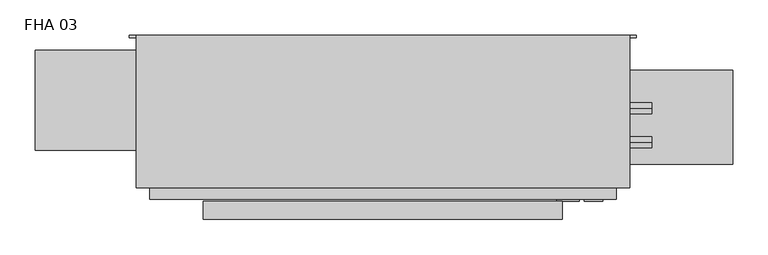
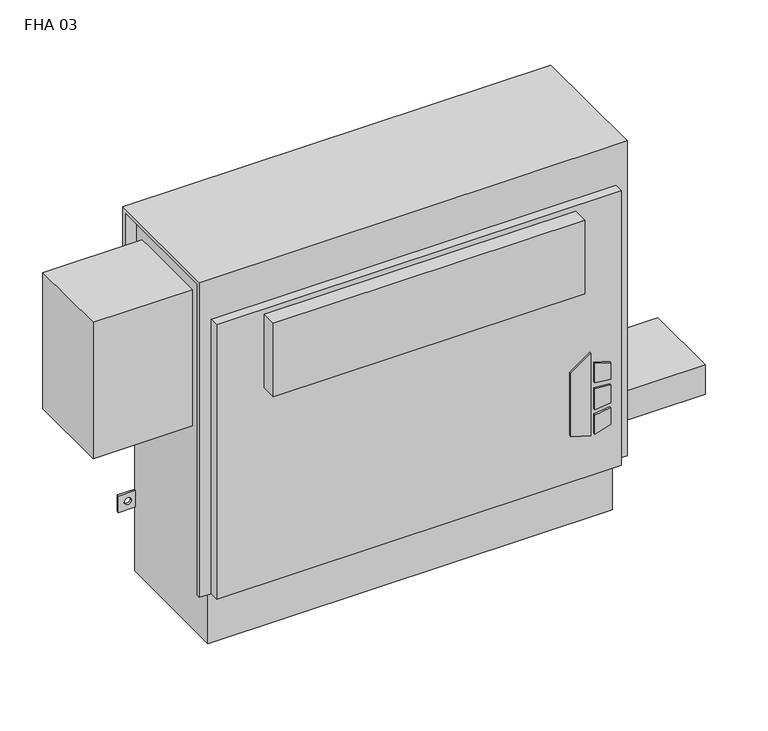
"""IFC4 building model written with IfcOpenShell, lengths in millimetres: proxy geometry, Vertical_Fan_Coil_Unit_-_FHA_-_IEC_-_2-Pipe_FS-FR_RH_2022 : FHA 03."""

from ifc_helpers import new_model, si_unit, point, frame, frame_2d, origin, place, context, project, spatial, polyline, circle_curve, trimmed, segment, composite_curve, outline, extrude, source, transform, mapped, element, save
from ifc_brep_helpers import plane_surface, revolved_surface, advanced_brep


def fha_03_7d003db8(model_context):
    return source(origin(), model_context, "Body", "SolidModel", [
        extrude(outline(polyline([(172.5771459, 398.5368862), (162.6290756, 430.7102728), (304.8, 430.7102728), (281.7779939, 398.5368862), (172.5771459, 398.5368862)])), frame((0.0, 9.525, 0.0), z_axis=(0.0, 1.0, 0.0), x_axis=(0.0, 0.0, 1.0)), (0.0, 0.0, 1.0), 3.175),
        extrude(outline(polyline([(251.5764313, 437.4686058), (248.3740387, 463.55), (277.6028798, 463.55), (285.6672948, 437.4686058), (251.5764313, 437.4686058)])), frame((0.0, 9.525, 0.0), z_axis=(0.0, 1.0, 0.0), x_axis=(0.0, 0.0, 1.0)), (0.0, 0.0, 1.0), 3.175),
        extrude(outline(polyline([(199.7129044, 463.55), (196.0474034, 437.4686058), (162.6290756, 437.4686058), (171.2633128, 463.55), (199.7129044, 463.55)])), frame((0.0, 9.525, 0.0), z_axis=(0.0, 1.0, 0.0), x_axis=(0.0, 0.0, 1.0)), (0.0, 0.0, 1.0), 3.175),
        extrude(outline(polyline([(239.0280658, 463.55), (241.3098921, 437.4686058), (205.3723436, 437.4686058), (208.1136086, 463.55), (239.0280658, 463.55)])), frame((0.0, 9.525, 0.0), z_axis=(0.0, 1.0, 0.0), x_axis=(0.0, 0.0, 1.0)), (0.0, 0.0, 1.0), 3.175),
        extrude(outline(composite_curve([segment(trimmed(circle_curve(frame_2d((546.1, 128.5875)), 9.525), [point((536.575, 128.5875))], [point((555.625, 128.5875))], False, "CARTESIAN"), True, "CONTINUOUS"), segment(trimmed(circle_curve(frame_2d((546.1, 128.5875)), 9.525), [point((555.625, 128.5875))], [point((536.575, 128.5875))], False, "CARTESIAN"), True, "CONTINUOUS")], self_intersect=False)), frame((0.0, 0.0, 101.6), z_axis=(0.0, 0.0, 1.0), x_axis=(1.0, 0.0, 0.0)), (0.0, 0.0, 1.0), 25.4),
        extrude(outline(polyline([(647.7, 195.2625), (647.7, 61.9125), (482.6, 61.9125), (482.6, 195.2625), (647.7, 195.2625)])), frame((0.0, 0.0, 127.0), z_axis=(0.0, 0.0, 1.0), x_axis=(1.0, 0.0, 0.0)), (0.0, 0.0, 1.0), 50.8),
        extrude(outline(polyline([(406.4, -15.875), (-101.6, -15.875), (-101.6, 9.525), (406.4, 9.525), (406.4, -15.875)])), frame((0.0, 0.0, 431.8), z_axis=(0.0, 0.0, 1.0), x_axis=(1.0, 0.0, 0.0)), (0.0, 0.0, 1.0), 127.0),
        extrude(outline(composite_curve([segment(trimmed(circle_curve(frame_2d((93.1926, 488.0102)), 7.9375), [point((93.1926, 480.0727))], [point((93.1926, 495.9477))], False, "CARTESIAN"), True, "CONTINUOUS"), segment(trimmed(circle_curve(frame_2d((93.1926, 488.0102)), 7.9375), [point((93.1926, 495.9477))], [point((93.1926, 480.0727))], False, "CARTESIAN"), True, "CONTINUOUS")], self_intersect=False)), frame((482.6, 0.0, 0.0), z_axis=(1.0, 0.0, 0.0), x_axis=(0.0, 1.0, 0.0)), (0.0, 0.0, 1.0), 50.8),
        extrude(outline(composite_curve([segment(trimmed(circle_curve(frame_2d((141.3002, 461.3402)), 7.9375), [point((141.3002, 453.4027))], [point((141.3002, 469.2777))], False, "CARTESIAN"), True, "CONTINUOUS"), segment(trimmed(circle_curve(frame_2d((141.3002, 461.3402)), 7.9375), [point((141.3002, 469.2777))], [point((141.3002, 453.4027))], False, "CARTESIAN"), True, "CONTINUOUS")], self_intersect=False)), frame((482.6, 0.0, 0.0), z_axis=(1.0, 0.0, 0.0), x_axis=(0.0, 1.0, 0.0)), (0.0, 0.0, 1.0), 50.8),
        extrude(outline(polyline([(-177.8, 223.266), (-177.8, 81.534), (-339.725, 81.534), (-339.725, 223.266), (-177.8, 223.266)])), frame((0.0, 0.0, 349.25), z_axis=(0.0, 0.0, 1.0), x_axis=(1.0, 0.0, 0.0)), (0.0, 0.0, 1.0), 234.95),
        advanced_brep(
        [(501.65, 244.475, 635.0), (-196.85, 244.475, 635.0), (-196.85, 28.575, 635.0), (501.65, 28.575, 635.0), (-177.8, 244.475, 0.0), (482.6, 244.475, 0.0), (482.6, 38.1, 0.0), (-177.8, 38.1, 0.0), (501.65, 244.475, 558.8), (482.6, 244.475, 558.8), (482.6, 244.475, 414.3375), (511.175, 244.475, 414.3375), (511.175, 244.475, 385.7625), (482.6, 244.475, 385.7625), (482.6, 244.475, 287.3375), (511.175, 244.475, 287.3375), (511.175, 244.475, 258.7625), (482.6, 244.475, 258.7625), (482.6, 244.475, 141.2875), (511.175, 244.475, 141.2875), (511.175, 244.475, 112.7125), (482.6, 244.475, 112.7125), (-177.8, 244.475, 112.7125), (-206.375, 244.475, 112.7125), (-206.375, 244.475, 141.2875), (-177.8, 244.475, 141.2875), (-177.8, 244.475, 258.7625), (-206.375, 244.475, 258.7625), (-206.375, 244.475, 287.3375), (-177.8, 244.475, 287.3375), (-177.8, 244.475, 385.7625), (-206.375, 244.475, 385.7625), (-206.375, 244.475, 414.3375), (-177.8, 244.475, 414.3375), (-177.8, 244.475, 558.8), (-196.85, 244.475, 558.8), (500.8626, 244.475, 127.0), (489.7374, 244.475, 127.0), (-184.9374, 244.475, 127.0), (-196.0626, 244.475, 127.0), (500.8626, 244.475, 273.05), (489.7374, 244.475, 273.05), (-184.9374, 244.475, 273.05), (-196.0626, 244.475, 273.05), (500.8626, 244.475, 400.05), (489.7374, 244.475, 400.05), (-184.9374, 244.475, 400.05), (-196.0626, 244.475, 400.05), (-196.85, 238.125, 558.8), (-196.85, 238.125, 628.65), (-196.85, 34.925, 628.65), (-196.85, 34.925, 92.075), (-196.85, 28.575, 92.075), (482.6, 12.7, 565.15), (-177.8, 12.7, 565.15), (-177.8, 12.7, 92.075), (482.6, 12.7, 92.075), (501.65, 28.575, 92.075), (501.65, 34.925, 92.075), (501.65, 34.925, 628.65), (501.65, 238.125, 628.65), (501.65, 238.125, 558.8), (-177.8, 28.575, 92.075), (-177.8, 28.575, 565.15), (482.6, 28.575, 565.15), (482.6, 28.575, 92.075), (-177.8, 34.925, 92.075), (-177.8, 38.1, 92.075), (482.6, 38.1, 92.075), (482.6, 34.925, 92.075), (482.6, 241.3, 112.7125), (482.6, 241.3, 141.2875), (482.6, 241.3, 258.7625), (482.6, 241.3, 287.3375), (482.6, 241.3, 385.7625), (482.6, 241.3, 414.3375), (482.6, 238.125, 558.8), (482.6, 238.125, 628.65), (482.6, 34.925, 628.65), (-177.8, 34.925, 628.65), (-177.8, 238.125, 628.65), (-177.8, 238.125, 558.8), (-177.8, 241.3, 414.3375), (-177.8, 241.3, 385.7625), (-177.8, 241.3, 287.3375), (-177.8, 241.3, 258.7625), (-177.8, 241.3, 141.2875), (-177.8, 241.3, 112.7125), (511.175, 241.3, 112.7125), (511.175, 241.3, 141.2875), (489.7374, 241.3, 127.0), (500.8626, 241.3, 127.0), (511.175, 241.3, 258.7625), (511.175, 241.3, 287.3375), (489.7374, 241.3, 273.05), (500.8626, 241.3, 273.05), (511.175, 241.3, 385.7625), (511.175, 241.3, 414.3375), (489.7374, 241.3, 400.05), (500.8626, 241.3, 400.05), (-206.375, 241.3, 141.2875), (-206.375, 241.3, 112.7125), (-196.0626, 241.3, 127.0), (-184.9374, 241.3, 127.0), (-206.375, 241.3, 287.3375), (-206.375, 241.3, 258.7625), (-196.0626, 241.3, 273.05), (-184.9374, 241.3, 273.05), (-206.375, 241.3, 414.3375), (-206.375, 241.3, 385.7625), (-196.0626, 241.3, 400.05), (-184.9374, 241.3, 400.05)],
        [
            (0, 1),
            (1, 2),
            (2, 3),
            (3, 0),
            (4, 5),
            (5, 6),
            (6, 7),
            (7, 4),
            (0, 8),
            (8, 9),
            (9, 10),
            (10, 11),
            (11, 12),
            (12, 13),
            (13, 14),
            (14, 15),
            (15, 16),
            (16, 17),
            (17, 18),
            (18, 19),
            (19, 20),
            (20, 21),
            (21, 5),
            (4, 22),
            (22, 23),
            (23, 24),
            (24, 25),
            (25, 26),
            (26, 27),
            (27, 28),
            (28, 29),
            (29, 30),
            (30, 31),
            (31, 32),
            (32, 33),
            (33, 34),
            (34, 35),
            (35, 1),
            (36, 37, circle_curve(frame((495.3, 244.475, 127.0), z_axis=(0.0, -1.0, 0.0), x_axis=(-1.0, 0.0, 0.0)), 5.5626)),
            (37, 36, circle_curve(frame((495.3, 244.475, 127.0), z_axis=(0.0, -1.0, 0.0), x_axis=(-1.0, 0.0, 0.0)), 5.5626)),
            (38, 39, circle_curve(frame((-190.5, 244.475, 127.0), z_axis=(0.0, -1.0, 0.0), x_axis=(-1.0, 0.0, 0.0)), 5.5626)),
            (39, 38, circle_curve(frame((-190.5, 244.475, 127.0), z_axis=(0.0, -1.0, 0.0), x_axis=(-1.0, 0.0, 0.0)), 5.5626)),
            (40, 41, circle_curve(frame((495.3, 244.475, 273.05), z_axis=(0.0, -1.0, 0.0), x_axis=(-1.0, 0.0, 0.0)), 5.5626)),
            (41, 40, circle_curve(frame((495.3, 244.475, 273.05), z_axis=(0.0, -1.0, 0.0), x_axis=(-1.0, 0.0, 0.0)), 5.5626)),
            (42, 43, circle_curve(frame((-190.5, 244.475, 273.05), z_axis=(0.0, -1.0, 0.0), x_axis=(-1.0, 0.0, 0.0)), 5.5626)),
            (43, 42, circle_curve(frame((-190.5, 244.475, 273.05), z_axis=(0.0, -1.0, 0.0), x_axis=(-1.0, 0.0, 0.0)), 5.5626)),
            (44, 45, circle_curve(frame((495.3, 244.475, 400.05), z_axis=(0.0, -1.0, 0.0), x_axis=(-1.0, 0.0, 0.0)), 5.5626)),
            (45, 44, circle_curve(frame((495.3, 244.475, 400.05), z_axis=(0.0, -1.0, 0.0), x_axis=(-1.0, 0.0, 0.0)), 5.5626)),
            (46, 47, circle_curve(frame((-190.5, 244.475, 400.05), z_axis=(0.0, -1.0, 0.0), x_axis=(-1.0, 0.0, 0.0)), 5.5626)),
            (47, 46, circle_curve(frame((-190.5, 244.475, 400.05), z_axis=(0.0, -1.0, 0.0), x_axis=(-1.0, 0.0, 0.0)), 5.5626)),
            (35, 48),
            (48, 49),
            (49, 50),
            (50, 51),
            (51, 52),
            (52, 2),
            (53, 54),
            (54, 55),
            (55, 56),
            (56, 53),
            (3, 57),
            (57, 58),
            (58, 59),
            (59, 60),
            (60, 61),
            (61, 8),
            (52, 62),
            (62, 63),
            (63, 64),
            (64, 65),
            (65, 57),
            (53, 64),
            (63, 54),
            (55, 62),
            (51, 66),
            (66, 67),
            (67, 68),
            (68, 69),
            (69, 58),
            (65, 56),
            (6, 68),
            (67, 7),
            (21, 70),
            (70, 71),
            (71, 18),
            (17, 72),
            (72, 73),
            (73, 14),
            (13, 74),
            (74, 75),
            (75, 10),
            (9, 76),
            (76, 77),
            (77, 78),
            (78, 69),
            (66, 79),
            (79, 80),
            (80, 81),
            (81, 34),
            (33, 82),
            (82, 83),
            (83, 30),
            (29, 84),
            (84, 85),
            (85, 26),
            (25, 86),
            (86, 87),
            (87, 22),
            (76, 61),
            (60, 77),
            (78, 59),
            (50, 79),
            (81, 48),
            (80, 49),
            (70, 88),
            (88, 89),
            (89, 71),
            (90, 91, circle_curve(frame((495.3, 241.3, 127.0), z_axis=(0.0, 1.0, 0.0), x_axis=(-1.0, 0.0, 0.0)), 5.5626)),
            (91, 90, circle_curve(frame((495.3, 241.3, 127.0), z_axis=(0.0, 1.0, 0.0), x_axis=(-1.0, 0.0, 0.0)), 5.5626)),
            (92, 93),
            (93, 73),
            (72, 92),
            (94, 95, circle_curve(frame((495.3, 241.3, 273.05), z_axis=(0.0, 1.0, 0.0), x_axis=(-1.0, 0.0, 0.0)), 5.5626)),
            (95, 94, circle_curve(frame((495.3, 241.3, 273.05), z_axis=(0.0, 1.0, 0.0), x_axis=(-1.0, 0.0, 0.0)), 5.5626)),
            (96, 97),
            (97, 75),
            (74, 96),
            (98, 99, circle_curve(frame((495.3, 241.3, 400.05), z_axis=(0.0, 1.0, 0.0), x_axis=(-1.0, 0.0, 0.0)), 5.5626)),
            (99, 98, circle_curve(frame((495.3, 241.3, 400.05), z_axis=(0.0, 1.0, 0.0), x_axis=(-1.0, 0.0, 0.0)), 5.5626)),
            (100, 101),
            (101, 87),
            (86, 100),
            (102, 103, circle_curve(frame((-190.5, 241.3, 127.0), z_axis=(0.0, 1.0, 0.0), x_axis=(-1.0, 0.0, 0.0)), 5.5626)),
            (103, 102, circle_curve(frame((-190.5, 241.3, 127.0), z_axis=(0.0, 1.0, 0.0), x_axis=(-1.0, 0.0, 0.0)), 5.5626)),
            (84, 104),
            (104, 105),
            (105, 85),
            (106, 107, circle_curve(frame((-190.5, 241.3, 273.05), z_axis=(0.0, 1.0, 0.0), x_axis=(-1.0, 0.0, 0.0)), 5.5626)),
            (107, 106, circle_curve(frame((-190.5, 241.3, 273.05), z_axis=(0.0, 1.0, 0.0), x_axis=(-1.0, 0.0, 0.0)), 5.5626)),
            (108, 109),
            (109, 83),
            (82, 108),
            (110, 111, circle_curve(frame((-190.5, 241.3, 400.05), z_axis=(0.0, 1.0, 0.0), x_axis=(-1.0, 0.0, 0.0)), 5.5626)),
            (111, 110, circle_curve(frame((-190.5, 241.3, 400.05), z_axis=(0.0, 1.0, 0.0), x_axis=(-1.0, 0.0, 0.0)), 5.5626)),
            (89, 19),
            (88, 20),
            (16, 92),
            (93, 15),
            (12, 96),
            (97, 11),
            (24, 100),
            (101, 23),
            (105, 27),
            (104, 28),
            (32, 108),
            (109, 31),
            (90, 37),
            (36, 91),
            (102, 39),
            (38, 103),
            (94, 41),
            (40, 95),
            (106, 43),
            (42, 107),
            (98, 45),
            (44, 99),
            (110, 47),
            (46, 111),
        ],
        [
            plane_surface(frame((-196.85, 244.475, 635.0), z_axis=(0.0, 0.0, 1.0), x_axis=(-1.0, 0.0, 0.0))),
            plane_surface(frame((-196.85, 244.475, 0.0), z_axis=(0.0, 0.0, -1.0), x_axis=(1.0, 0.0, 0.0))),
            plane_surface(frame((501.65, 244.475, 635.0), z_axis=(0.0, 1.0, 0.0), x_axis=(0.0, 0.0, -1.0))),
            plane_surface(frame((-196.85, 244.475, 635.0), z_axis=(-1.0, 0.0, 0.0), x_axis=(0.0, 0.0, -1.0))),
            plane_surface(frame((-196.85, 12.7, 635.0), z_axis=(0.0, -1.0, 0.0), x_axis=(0.0, 0.0, -1.0))),
            plane_surface(frame((501.65, 12.7, 635.0), z_axis=(1.0, 0.0, 0.0), x_axis=(0.0, 0.0, -1.0))),
            plane_surface(frame((-247.65, 28.575, 635.0), z_axis=(0.0, -1.0, 0.0), x_axis=(1.0, 0.0, 0.0))),
            plane_surface(frame((-247.65, 28.575, 565.15), z_axis=(0.0, 0.0, 1.0), x_axis=(1.0, 0.0, 0.0))),
            plane_surface(frame((-196.85, 12.7, 92.075), z_axis=(0.0, 0.0, -1.0), x_axis=(1.0, 0.0, 0.0))),
            plane_surface(frame((-196.85, 38.1, 92.075), z_axis=(0.0, -1.0, 0.0), x_axis=(1.0, 0.0, 0.0))),
            plane_surface(frame((482.6, 28.575, 92.075), z_axis=(1.0, 0.0, 0.0), x_axis=(0.0, -1.0, 0.0))),
            plane_surface(frame((-177.8, 28.575, 565.15), z_axis=(-1.0, 0.0, 0.0), x_axis=(0.0, -1.0, 0.0))),
            plane_surface(frame((482.6, 244.475, 0.0), z_axis=(1.0, 0.0, 0.0), x_axis=(0.0, -1.0, 0.0))),
            plane_surface(frame((-177.8, 244.475, 92.075), z_axis=(-1.0, 0.0, 0.0), x_axis=(0.0, -1.0, 0.0))),
            plane_surface(frame((482.6, 238.125, 628.65), z_axis=(0.0, -1.0, 0.0), x_axis=(1.0, 0.0, 0.0))),
            plane_surface(frame((482.6, 238.125, 558.8), z_axis=(0.0, 0.0, -1.0), x_axis=(1.0, 0.0, 0.0))),
            plane_surface(frame((482.6, 34.925, 92.075), z_axis=(0.0, 1.0, 0.0), x_axis=(1.0, 0.0, 0.0))),
            plane_surface(frame((482.6, 34.925, 628.65), z_axis=(0.0, 0.0, -1.0), x_axis=(1.0, 0.0, 0.0))),
            plane_surface(frame((-177.8, 34.925, 628.65), z_axis=(0.0, 1.0, 0.0), x_axis=(-1.0, 0.0, 0.0))),
            plane_surface(frame((-177.8, 244.475, 558.8), z_axis=(0.0, 0.0, -1.0), x_axis=(-1.0, 0.0, 0.0))),
            plane_surface(frame((-177.8, 238.125, 558.8), z_axis=(0.0, -1.0, 0.0), x_axis=(-1.0, 0.0, 0.0))),
            plane_surface(frame((-177.8, 238.125, 628.65), z_axis=(0.0, 0.0, -1.0), x_axis=(-1.0, 0.0, 0.0))),
            plane_surface(frame((511.175, 241.3, 141.2875), z_axis=(0.0, -1.0, 0.0), x_axis=(-1.0, 0.0, 0.0))),
            plane_surface(frame((482.6, 244.475, 141.2875), z_axis=(0.0, 0.0, 1.0), x_axis=(0.0, -1.0, 0.0))),
            plane_surface(frame((511.175, 244.475, 141.2875), z_axis=(1.0, 0.0, 0.0), x_axis=(0.0, -1.0, 0.0))),
            plane_surface(frame((511.175, 244.475, 112.7125), z_axis=(0.0, 0.0, -1.0), x_axis=(0.0, -1.0, 0.0))),
            plane_surface(frame((511.175, 244.475, 258.7625), z_axis=(0.0, 0.0, -1.0), x_axis=(0.0, -1.0, 0.0))),
            plane_surface(frame((482.6, 244.475, 287.3375), z_axis=(0.0, 0.0, 1.0), x_axis=(0.0, -1.0, 0.0))),
            plane_surface(frame((511.175, 244.475, 287.3375), z_axis=(1.0, 0.0, 0.0), x_axis=(0.0, -1.0, 0.0))),
            plane_surface(frame((511.175, 244.475, 385.7625), z_axis=(0.0, 0.0, -1.0), x_axis=(0.0, -1.0, 0.0))),
            plane_surface(frame((482.6, 244.475, 414.3375), z_axis=(0.0, 0.0, 1.0), x_axis=(0.0, -1.0, 0.0))),
            plane_surface(frame((511.175, 244.475, 414.3375), z_axis=(1.0, 0.0, 0.0), x_axis=(0.0, -1.0, 0.0))),
            plane_surface(frame((-206.375, 244.475, 141.2875), z_axis=(0.0, 0.0, 1.0), x_axis=(0.0, -1.0, 0.0))),
            plane_surface(frame((-177.8, 244.475, 112.7125), z_axis=(0.0, 0.0, -1.0), x_axis=(0.0, -1.0, 0.0))),
            plane_surface(frame((-206.375, 244.475, 112.7125), z_axis=(-1.0, 0.0, 0.0), x_axis=(0.0, -1.0, 0.0))),
            plane_surface(frame((-177.8, 244.475, 258.7625), z_axis=(0.0, 0.0, -1.0), x_axis=(0.0, -1.0, 0.0))),
            plane_surface(frame((-206.375, 244.475, 258.7625), z_axis=(-1.0, 0.0, 0.0), x_axis=(0.0, -1.0, 0.0))),
            plane_surface(frame((-206.375, 244.475, 287.3375), z_axis=(0.0, 0.0, 1.0), x_axis=(0.0, -1.0, 0.0))),
            plane_surface(frame((-206.375, 244.475, 414.3375), z_axis=(0.0, 0.0, 1.0), x_axis=(0.0, -1.0, 0.0))),
            plane_surface(frame((-177.8, 244.475, 385.7625), z_axis=(0.0, 0.0, -1.0), x_axis=(0.0, -1.0, 0.0))),
            plane_surface(frame((-206.375, 244.475, 385.7625), z_axis=(-1.0, 0.0, 0.0), x_axis=(0.0, -1.0, 0.0))),
            revolved_surface(polyline([(489.73740000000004, 241.3, 127.0), (489.73740000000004, 244.475, 127.0)]), (495.3, 244.475, 127.0), (0.0, -1.0, 0.0)),
            revolved_surface(polyline([(-196.0626, 241.3, 127.0), (-196.0626, 244.475, 127.0)]), (-190.5, 244.475, 127.0), (0.0, -1.0, 0.0)),
            revolved_surface(polyline([(489.73740000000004, 241.3, 273.05), (489.73740000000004, 244.475, 273.05)]), (495.3, 244.475, 273.05), (0.0, -1.0, 0.0)),
            revolved_surface(polyline([(-196.0626, 241.3, 273.05), (-196.0626, 244.475, 273.05)]), (-190.5, 244.475, 273.05), (0.0, -1.0, 0.0)),
            revolved_surface(polyline([(489.73740000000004, 241.3, 400.05), (489.73740000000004, 244.475, 400.05)]), (495.3, 244.475, 400.05), (0.0, -1.0, 0.0)),
            revolved_surface(polyline([(-196.0626, 241.3, 400.05), (-196.0626, 244.475, 400.05)]), (-190.5, 244.475, 400.05), (0.0, -1.0, 0.0)),
        ],
        [
            (0, [[1, 2, 3, 4]]),
            (1, [[5, 6, 7, 8]]),
            (2, [[-1, 9, 10, 11, 12, 13, 14, 15, 16, 17, 18, 19, 20, 21, 22, 23, -5, 24, 25, 26, 27, 28, 29, 30, 31, 32, 33, 34, 35, 36, 37, 38], [39, 40], [41, 42], [43, 44], [45, 46], [47, 48], [49, 50]]),
            (3, [[-2, -38, 51, 52, 53, 54, 55, 56]]),
            (4, [[57, 58, 59, 60]]),
            (5, [[-4, 61, 62, 63, 64, 65, 66, -9]]),
            (6, [[-3, -56, 67, 68, 69, 70, 71, -61]]),
            (7, [[-57, 72, -69, 73]]),
            (8, [[-59, 74, -67, -55, 75, 76, 77, 78, 79, -62, -71, 80]]),
            (9, [[-7, 81, -77, 82]]),
            (10, [[-70, -72, -60, -80]]),
            (11, [[-68, -74, -58, -73]]),
            (12, [[-6, -23, 83, 84, 85, -19, 86, 87, 88, -15, 89, 90, 91, -11, 92, 93, 94, 95, -78, -81]]),
            (13, [[-8, -82, -76, 96, 97, 98, 99, -36, 100, 101, 102, -32, 103, 104, 105, -28, 106, 107, 108, -24]]),
            (14, [[-93, 109, -65, 110]]),
            (15, [[-92, -10, -66, -109]]),
            (16, [[-95, 111, -63, -79]]),
            (17, [[-94, -110, -64, -111]]),
            (18, [[-96, -75, -54, 112]]),
            (19, [[-99, 113, -51, -37]]),
            (20, [[-98, 114, -52, -113]]),
            (21, [[-97, -112, -53, -114]]),
            (22, [[115, 116, 117, -84], [118, 119]]),
            (22, [[120, 121, -87, 122], [123, 124]]),
            (22, [[125, 126, -90, 127], [128, 129]]),
            (22, [[130, 131, -107, 132], [133, 134]]),
            (22, [[135, 136, 137, -104], [138, 139]]),
            (22, [[140, 141, -101, 142], [143, 144]]),
            (23, [[-117, 145, -20, -85]]),
            (24, [[-116, 146, -21, -145]]),
            (25, [[-115, -83, -22, -146]]),
            (26, [[-122, -86, -18, 147]]),
            (27, [[-121, 148, -16, -88]]),
            (28, [[-120, -147, -17, -148]]),
            (29, [[-127, -89, -14, 149]]),
            (30, [[-126, 150, -12, -91]]),
            (31, [[-125, -149, -13, -150]]),
            (32, [[-132, -106, -27, 151]]),
            (33, [[-131, 152, -25, -108]]),
            (34, [[-130, -151, -26, -152]]),
            (35, [[-137, 153, -29, -105]]),
            (36, [[-136, 154, -30, -153]]),
            (37, [[-135, -103, -31, -154]]),
            (38, [[-142, -100, -35, 155]]),
            (39, [[-141, 156, -33, -102]]),
            (40, [[-140, -155, -34, -156]]),
            (41, [[157, -39, 158, -118]]),
            (41, [[-157, -119, -158, -40]]),
            (42, [[159, -41, 160, -133]]),
            (42, [[-159, -134, -160, -42]]),
            (43, [[161, -43, 162, -123]]),
            (43, [[-161, -124, -162, -44]]),
            (44, [[163, -45, 164, -138]]),
            (44, [[-163, -139, -164, -46]]),
            (45, [[165, -47, 166, -128]]),
            (45, [[-165, -129, -166, -48]]),
            (46, [[167, -49, 168, -143]]),
            (46, [[-167, -144, -168, -50]]),
        ],
    ),
    ])


if __name__ == "__main__":
    model = new_model("IFC4")
    model_context = context("Model", 3, world=origin())
    ifc_project = project(units=[si_unit("LENGTHUNIT", "METRE", prefix="MILLI")], contexts=[model_context])
    site = spatial("IfcSite", under=ifc_project)
    building = spatial("IfcBuilding", under=site)
    placement = place(None, origin())
    fha_03_shape = fha_03_7d003db8(model_context)
    element("IfcBuildingElementProxy", 1, Name="Vertical_Fan_Coil_Unit_-_FHA_-_IEC_-_2-Pipe_FS-FR_RH_2022 : FHA 03", ObjectType="Vertical_Fan_Coil_Unit_-_FHA_-_IEC_-_2-Pipe_FS-FR_RH_2022 : FHA 03", at=placement, inside=building, context=model_context, shape_type="MappedRepresentation", body=[
        mapped(fha_03_shape, transform((0.0, 0.0, 0.0), x_axis=(1.0, 0.0, 0.0), y_axis=(0.0, 1.0, 0.0), z_axis=(0.0, 0.0, 1.0))),
    ])
    save(model, "model.ifc")
